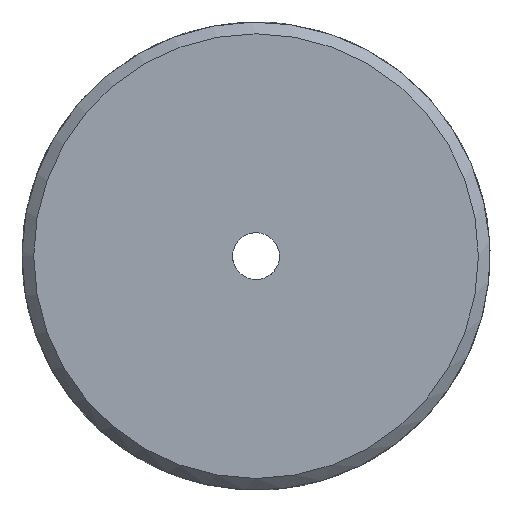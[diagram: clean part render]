
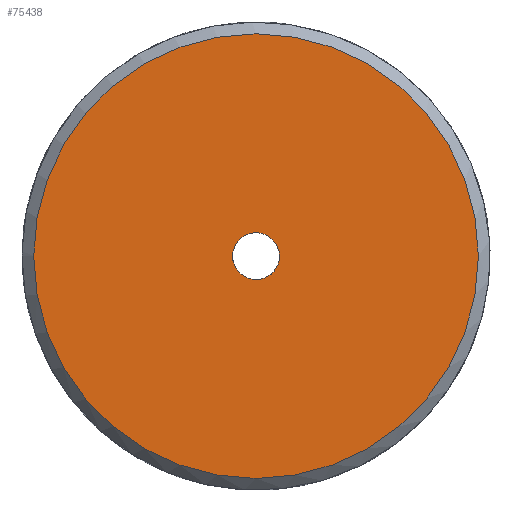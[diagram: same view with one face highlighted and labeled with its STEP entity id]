
A CAD part, left-side view. The second image highlights one B-rep face of the part: STEP entity #75438.
In plain terms, the highlighted planar face has unit normal (-1, 0, 0).
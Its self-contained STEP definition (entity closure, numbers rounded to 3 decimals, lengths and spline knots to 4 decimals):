
#21517=PLANE('',#74485);
#27776=ORIENTED_EDGE('',*,*,#29892,.F.);
#27777=ORIENTED_EDGE('',*,*,#32039,.F.);
#27779=CIRCLE('',#73124,9.5);
#28461=CIRCLE('',#74484,1.);
#28463=VERTEX_POINT('',#36235);
#29890=VERTEX_POINT('',#73117);
#29892=EDGE_CURVE('',#28463,#28463,#27779,.T.);
#32039=EDGE_CURVE('',#29890,#29890,#28461,.T.);
#32768=EDGE_LOOP('',(#27776));
#32769=EDGE_LOOP('',(#27777));
#33498=FACE_BOUND('',#32768,.T.);
#33499=FACE_BOUND('',#32769,.T.);
#33504=DIRECTION('',(1.,0.,0.));
#33505=DIRECTION('',(0.,0.,-9.5));
#36224=DIRECTION('',(-1.,0.,0.));
#36225=DIRECTION('',(0.,0.,-1.));
#36226=DIRECTION('',(-1.,0.,0.));
#36227=DIRECTION('',(0.,1.,0.));
#36235=CARTESIAN_POINT('',(14.8219,156.9718,-9.5));
#36236=CARTESIAN_POINT('',(14.8219,156.9718,0.));
#73117=CARTESIAN_POINT('',(14.8219,156.9718,-1.));
#73118=CARTESIAN_POINT('',(14.8219,156.9718,0.));
#73119=CARTESIAN_POINT('',(14.8219,156.9718,0.));
#73124=AXIS2_PLACEMENT_3D('',#36236,#33504,#33505);
#74484=AXIS2_PLACEMENT_3D('',#73118,#36224,#36225);
#74485=AXIS2_PLACEMENT_3D('',#73119,#36226,#36227);
#75438=ADVANCED_FACE('',(#33498,#33499),#21517,.T.);
